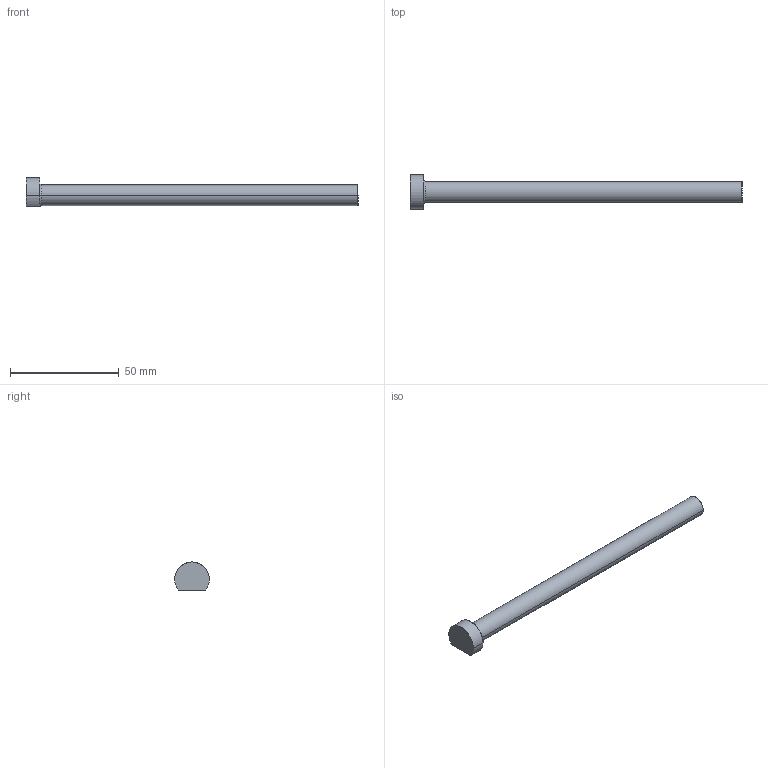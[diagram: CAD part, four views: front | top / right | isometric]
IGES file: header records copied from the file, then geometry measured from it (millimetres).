
Start section: SolidWorks IGES file using analytic representation for surfaces
Global section: file name: C:\Users\Ryan\Documents\PCS\Ejector Pins - D Headed - Inch\DHP25-6.igs; native system: SolidWorks 2009; preprocessor: SolidWorks 2009; author: Ryan; date: 140227.071734; units: inch
Bounding box: 152.4 x 15.88 x 12.87 mm (x, y, z)
Surface area: 5004 mm2 (no closed solid volume)
Topology: 0 solids, 0 shells, 11 faces, 171 edges, 171 vertices
Faces by surface type: bspline 6, revolution 5
